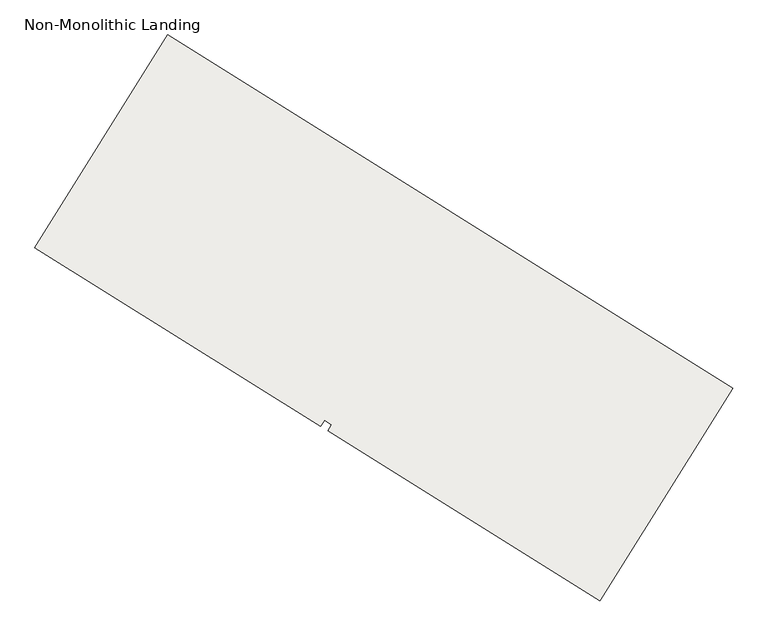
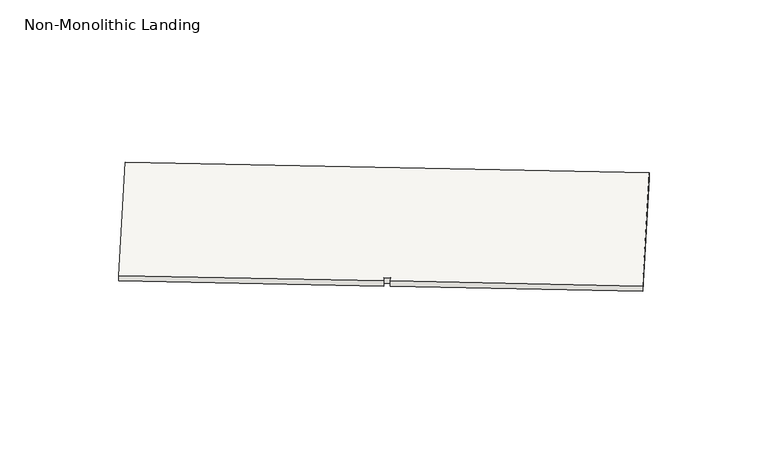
"""IFC4 building model written with IfcOpenShell, lengths in millimetres: slab geometry, Non-Monolithic Landing."""

from ifc_helpers import new_model, si_unit, frame, origin, place, context, project, spatial, polyline, outline, extrude, source, transform, mapped, element, save


def non_monolithic_landing_7629b929(model_context):
    return source(origin(), model_context, "Body", "SweptSolid", [
        extrude(outline(polyline([(45923.4413421, -49449.3404692), (46718.3202385, -48177.268325), (50096.7344612, -50288.3358308), (49301.8555649, -51560.4079751), (47675.9956027, -50544.4579142), (47698.4607568, -50508.5061523), (47654.6854494, -50481.1523043), (47632.2202952, -50517.1040662), (45923.4413421, -49449.3404692)])), frame((0.0, 0.0, 5350.0), z_axis=(0.0, 0.0, 1.0), x_axis=(1.0, 0.0, 0.0)), (0.0, 0.0, 1.0), 50.0),
    ])


if __name__ == "__main__":
    model = new_model("IFC4")
    model_context = context("Model", 3, world=origin())
    ifc_project = project(units=[si_unit("LENGTHUNIT", "METRE", prefix="MILLI")], contexts=[model_context])
    site = spatial("IfcSite", under=ifc_project)
    building = spatial("IfcBuilding", under=site)
    placement = place(None, origin())
    non_monolithic_landing_shape = non_monolithic_landing_7629b929(model_context)
    element("IfcSlab", 1, ObjectType="Non-Monolithic Landing", at=placement, inside=building, context=model_context, shape_type="MappedRepresentation", body=[
        mapped(non_monolithic_landing_shape, transform((0.0, 0.0, 0.0), x_axis=(1.0, 0.0, 0.0), y_axis=(0.0, 1.0, 0.0), z_axis=(0.0, 0.0, 1.0))),
    ])
    save(model, "model.ifc")
